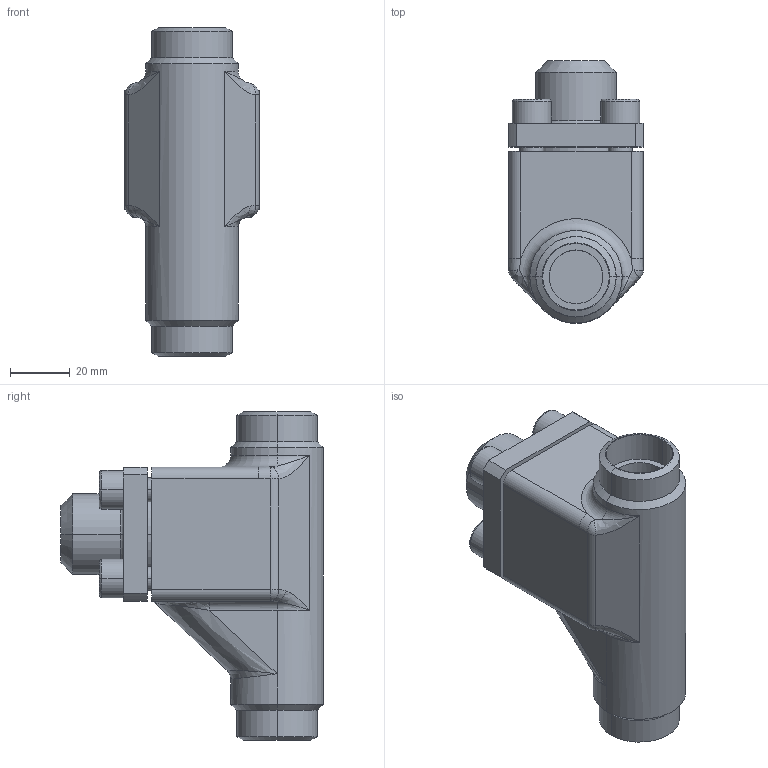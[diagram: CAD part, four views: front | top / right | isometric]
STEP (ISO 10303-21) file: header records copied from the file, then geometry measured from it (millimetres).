
FILE_DESCRIPTION (( 'STEP AP214' ), '1' );
FILE_NAME ('RV98300-DN020_R1_PS40.STEP', '2006-05-02T09:27:19', ( 'Herr Grams' ), ( 'AWP GmbH' ), 'SwSTEP 2.0', 'SolidWorks 2002296', '' );
FILE_SCHEMA (( 'AUTOMOTIVE_DESIGN' ));
Length unit declared in the file: millimetre
Products named in the file (5): RV98300-DN020_R1_PS40; Gehäuse96300E11-DN20_PS40_R1_Standard; RV98300E11_Deck+Schr-DN20_Standard; Deckel98300E11-DN20_PS40_Standard; Zylinderschraube-DIN912_M 8x 20
Assembly tree (7 placements, depth 3):
  RV98300-DN020_R1_PS40
    RV98300E11_Deck+Schr-DN20_Standard
      Deckel98300E11-DN20_PS40_Standard
      Zylinderschraube-DIN912_M 8x 20  x4
    Gehäuse96300E11-DN20_PS40_R1_Standard
Bounding box: 45 x 88 x 110 mm (x, y, z)
Volume: 137912.9 mm3; surface area: 40896 mm2
Topology: 6 solids, 6 shells, 200 faces, 442 edges, 264 vertices
Faces by surface type: cylinder 75, plane 71, cone 20, torus 15, bspline 13, sphere 6
Entity records: 15237 total; most frequent: CARTESIAN_POINT 11476, DIRECTION 709, ORIENTED_EDGE 644, EDGE_CURVE 322, AXIS2_PLACEMENT_3D 292, VERTEX_POINT 192, EDGE_LOOP 168, CIRCLE 148
